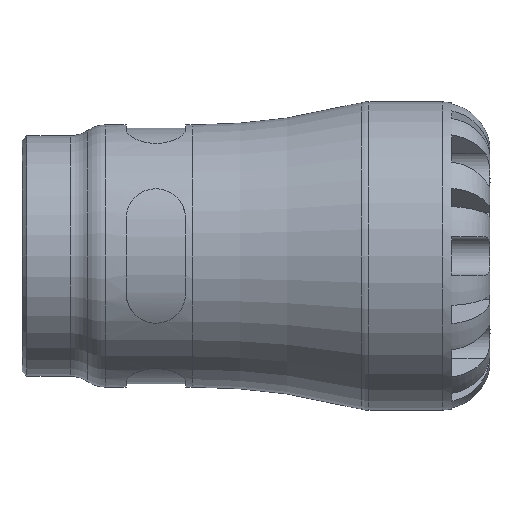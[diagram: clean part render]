
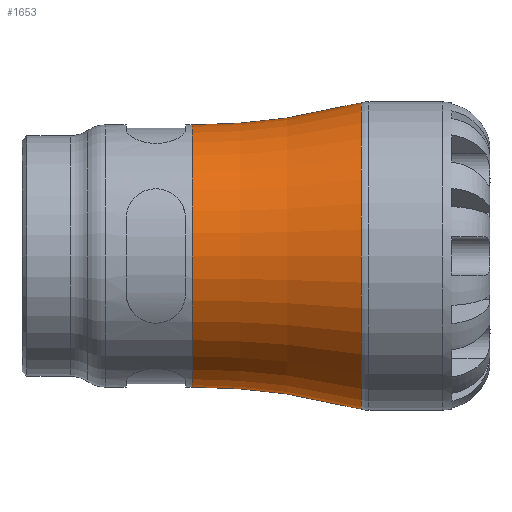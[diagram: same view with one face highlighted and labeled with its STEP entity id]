
A CAD part, front view. The second image highlights one B-rep face of the part: STEP entity #1653.
In plain terms, the highlighted toroidal (fillet/blend) face has major radius 148.084 mm and minor radius 123.434 mm.
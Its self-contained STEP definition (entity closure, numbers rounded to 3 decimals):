
#19=TOROIDAL_SURFACE('',#1850,148.084,123.434);
#43=FACE_BOUND('',#499,.T.);
#371=FACE_OUTER_BOUND('',#498,.T.);
#498=EDGE_LOOP('',(#1513));
#499=EDGE_LOOP('',(#1514));
#551=CIRCLE('',#1737,24.65);
#552=CIRCLE('',#1739,28.805);
#722=VERTEX_POINT('',#2784);
#723=VERTEX_POINT('',#2787);
#893=EDGE_CURVE('',#722,#722,#551,.T.);
#894=EDGE_CURVE('',#723,#723,#552,.T.);
#1513=ORIENTED_EDGE('',*,*,#894,.F.);
#1514=ORIENTED_EDGE('',*,*,#893,.T.);
#1653=ADVANCED_FACE('',(#371,#43),#19,.F.);
#1737=AXIS2_PLACEMENT_3D('',#2785,#2031,#2032);
#1739=AXIS2_PLACEMENT_3D('',#2788,#2035,#2036);
#1850=AXIS2_PLACEMENT_3D('',#3739,#2321,#2322);
#2031=DIRECTION('center_axis',(1.,0.,0.));
#2032=DIRECTION('ref_axis',(0.,0.,-1.));
#2035=DIRECTION('center_axis',(1.,0.,0.));
#2036=DIRECTION('ref_axis',(0.,-1.,0.));
#2321=DIRECTION('center_axis',(1.,0.,0.));
#2322=DIRECTION('ref_axis',(0.,0.,-1.));
#2784=CARTESIAN_POINT('',(32.,24.65,0.));
#2785=CARTESIAN_POINT('Origin',(32.,0.,0.));
#2787=CARTESIAN_POINT('',(63.756,28.805,0.));
#2788=CARTESIAN_POINT('Origin',(63.756,0.,0.));
#3739=CARTESIAN_POINT('Origin',(32.,0.,0.));
